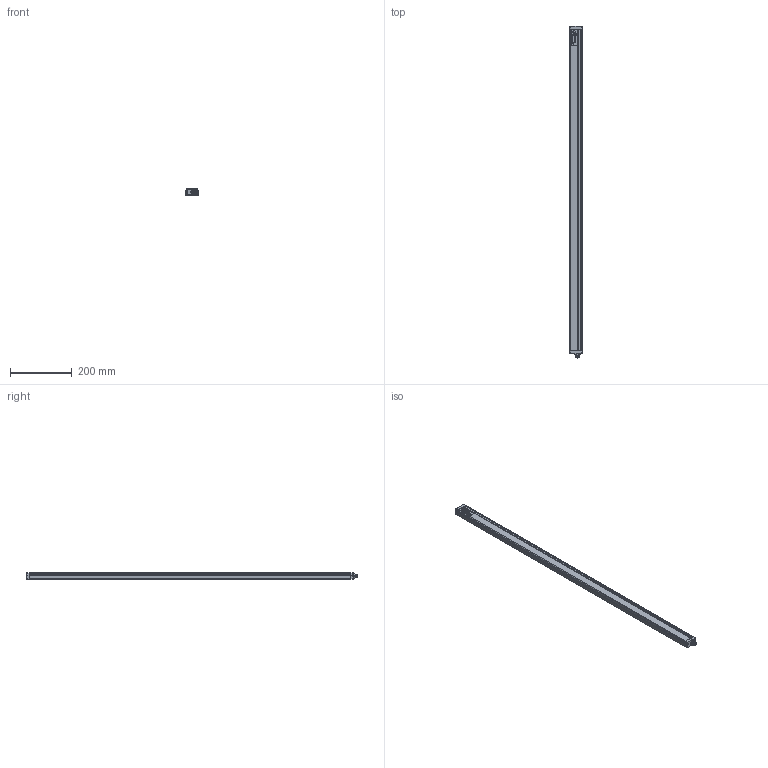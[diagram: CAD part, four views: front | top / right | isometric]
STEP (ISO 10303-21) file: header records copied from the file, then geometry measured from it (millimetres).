
FILE_DESCRIPTION(/* description */ (''),/* implementation_level */ '2;1');
FILE_NAME(/* name */ 'C:\Users\andre\SynologyDrive\Optoscan\Libreria Componenti\00 - Barriere\Barriera sorgente\Argo_1040_RX.stp',/* time_stamp */ '2021-04-22T11:59:12+02:00',/* author */ ('andre'),/* organization */ (''),/* preprocessor_version */ 'ST-DEVELOPER v18',/* originating_system */ 'Autodesk Inventor 2020',/* authorisation */ '');
FILE_SCHEMA (('AUTOMOTIVE_DESIGN { 1 0 10303 214 3 1 1 }'));
Length unit declared in the file: millimetre
Products named in the file (1): Argo_1040_RX
Bounding box: 40.5 x 1073.3 x 20.75 mm (x, y, z)
Volume: 213804.1 mm3; surface area: 280624.6 mm2
Topology: 1 solids, 1 shells, 692 faces, 1898 edges, 1217 vertices
Faces by surface type: plane 319, cylinder 195, bspline 94, torus 70, cone 8, sphere 6
Full cylindrical faces by diameter (mm): 1 x4, 2.459 x4, 2.5 x4, 3 x4, 3.5 x4, 5.5 x4, 8 x1, 10.5 x2, 11.75 x9, 15.7 x1, 17.5 x1
Entity records: 28165 total; most frequent: CARTESIAN_POINT 10195, ORIENTED_EDGE 3778, DIRECTION 3387, EDGE_CURVE 1889, VERTEX_POINT 1217, AXIS2_PLACEMENT_3D 1183, LINE 1021, VECTOR 1021
